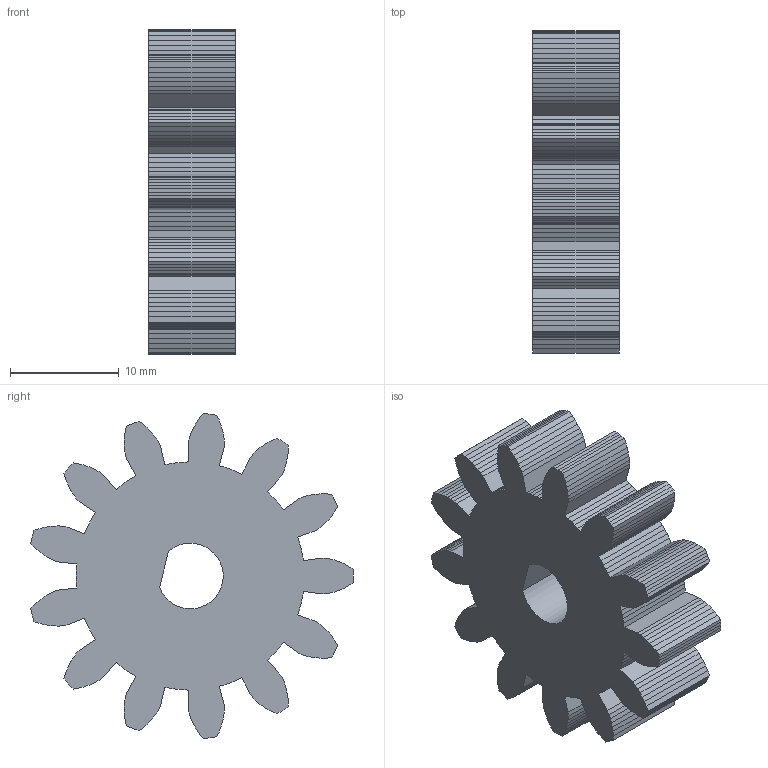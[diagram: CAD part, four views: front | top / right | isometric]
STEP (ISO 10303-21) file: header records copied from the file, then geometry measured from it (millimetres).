
FILE_DESCRIPTION(('Open CASCADE Model'),'2;1');
FILE_NAME('Open CASCADE Shape Model','2026-10-15T19:48:39',('Author'),( 'Open CASCADE'),'Open CASCADE STEP processor 7.9','Open CASCADE 7.9' ,'Unknown');
FILE_SCHEMA(('AUTOMOTIVE_DESIGN { 1 0 10303 214 1 1 1 1 }'));
Length unit declared in the file: millimetre
Products named in the file (1): Open CASCADE STEP translator 7.9 9
Bounding box: 8 x 29.7 x 29.91 mm (x, y, z)
Volume: 3852.8 mm3; surface area: 2478.5 mm2
Topology: 1 solids, 1 shells, 329 faces, 981 edges, 654 vertices
Faces by surface type: plane 328, cylinder 1
Entity records: 23590 total; most frequent: CARTESIAN_POINT 3939, DIRECTION 3603, LINE 2939, VECTOR 2939, ORIENTED_EDGE 1962, PCURVE 1962, DEFINITIONAL_REPRESENTATION 1962, EDGE_CURVE 981
